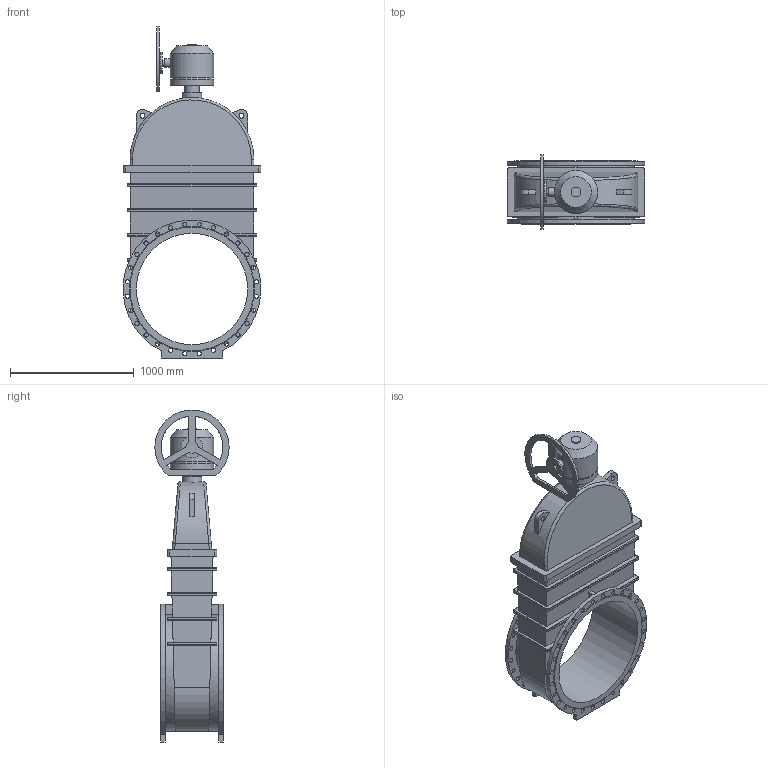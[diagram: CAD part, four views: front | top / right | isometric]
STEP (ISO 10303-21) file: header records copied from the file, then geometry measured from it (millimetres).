
FILE_DESCRIPTION(('STEP AP203'), '1');
FILE_NAME('Çàäâèæêà 47GV.Z DN900 PN10 + ðåäóêòîð ñ ìàõîâèêîì', '', ('UNSPECIFIED'), ('UNSPECIFIED'), 'ASCON STEP Converter 1.6', 'ASCON Math Kernel', '');
FILE_SCHEMA(('CONFIG_CONTROL_DESIGN'));
Length unit declared in the file: millimetre
Bounding box: 1112.29 x 600 x 2682.5 mm (x, y, z)
Volume: 449628620.9 mm3; surface area: 9116299.6 mm2
Topology: 1 solids, 1 shells, 298 faces, 754 edges, 479 vertices
Faces by surface type: cylinder 145, plane 116, bspline 34, cone 3
Full cylindrical faces by diameter (mm): 30 x1, 34 x56, 40 x2, 50 x1, 70 x1, 80 x1, 100 x1, 120 x1, 160 x1, 175 x1, 330 x1, 350 x2, 900 x1
Entity records: 15010 total; most frequent: CARTESIAN_POINT 5674, ORIENTED_EDGE 1362, DIRECTION 1346, EDGE_CURVE 681, EDGE_LOOP 516, AXIS2_PLACEMENT_3D 514, VERTEX_POINT 479, FACE_BOUND 371
